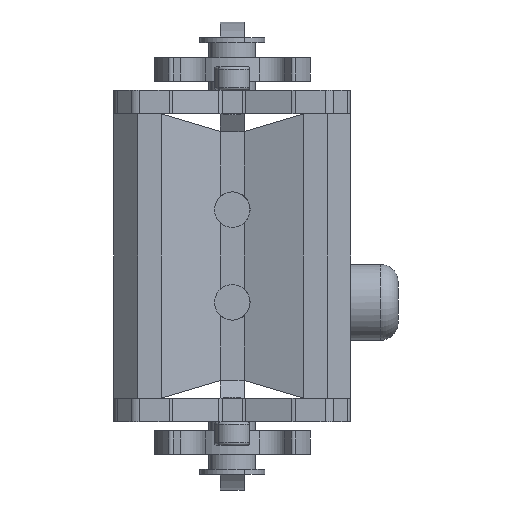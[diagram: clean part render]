
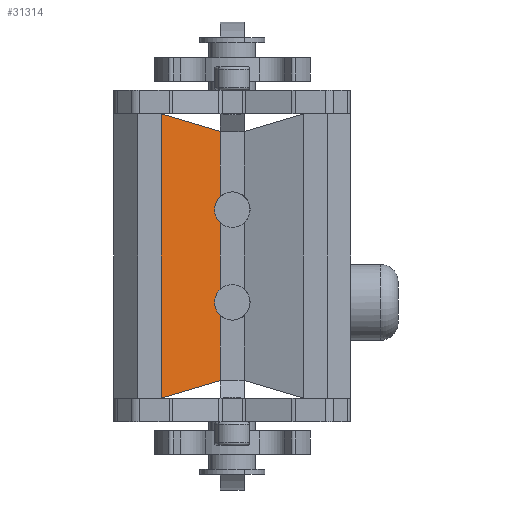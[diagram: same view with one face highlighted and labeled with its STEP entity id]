
A CAD part, front view. The second image highlights one B-rep face of the part: STEP entity #31314.
In plain terms, the highlighted planar face has unit normal (0.287, -0.958, 0).
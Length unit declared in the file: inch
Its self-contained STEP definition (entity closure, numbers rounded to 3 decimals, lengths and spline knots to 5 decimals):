
#53 = CARTESIAN_POINT ( 'NONE',  ( -0.21429, 0.16071, -0.42936 ) ) ;
#60 = VECTOR ( 'NONE', #7192, 39.37008 ) ;
#215 = FACE_OUTER_BOUND ( 'NONE', #17112, .T. ) ;
#299 =( BOUNDED_CURVE ( )  B_SPLINE_CURVE ( 3, ( #37659, #17066, #53, #10159 ),
 .UNSPECIFIED., .F., .F. ) 
 B_SPLINE_CURVE_WITH_KNOTS ( ( 4, 4 ),
 ( 2.30052, 3.98266 ),
 .UNSPECIFIED. ) 
 CURVE ( )  GEOMETRIC_REPRESENTATION_ITEM ( )  RATIONAL_B_SPLINE_CURVE ( ( 1., 0.778, 0.778, 1. ) ) 
 REPRESENTATION_ITEM ( '' )  );
#713 = DIRECTION ( 'NONE',  ( -0.921, -0.276, 0.276 ) ) ;
#715 = CARTESIAN_POINT ( 'NONE',  ( -0.75, 0., -1.5 ) ) ;
#931 = CARTESIAN_POINT ( 'NONE',  ( -0.125, 0.1875, -1.5 ) ) ;
#1827 = DIRECTION ( 'NONE',  ( -0.287, 0.958, 0. ) ) ;
#2577 = ORIENTED_EDGE ( 'NONE', *, *, #30788, .T. ) ;
#3138 = ORIENTED_EDGE ( 'NONE', *, *, #24315, .T. ) ;
#3711 = CARTESIAN_POINT ( 'NONE',  ( -0.75, 0., 1.5 ) ) ;
#5680 = LINE ( 'NONE', #931, #10528 ) ;
#5879 = CARTESIAN_POINT ( 'NONE',  ( -0.125, 0.1875, -0.629 ) ) ;
#6352 = CARTESIAN_POINT ( 'NONE',  ( -0.21429, 0.16071, 0.42936 ) ) ;
#6725 = EDGE_CURVE ( 'NONE', #23639, #26895, #22984, .T. ) ;
#7192 = DIRECTION ( 'NONE',  ( 0., 0., 1. ) ) ;
#8702 = VERTEX_POINT ( 'NONE', #33087 ) ;
#8755 = CARTESIAN_POINT ( 'NONE',  ( -0.75, 0., -1.5 ) ) ;
#9030 = VERTEX_POINT ( 'NONE', #26802 ) ;
#9069 = EDGE_CURVE ( 'NONE', #41512, #37932, #41988, .T. ) ;
#10159 = CARTESIAN_POINT ( 'NONE',  ( -0.125, 0.1875, -0.3495 ) ) ;
#10528 = VECTOR ( 'NONE', #38693, 39.37008 ) ;
#13816 = VECTOR ( 'NONE', #713, 39.37008 ) ;
#13878 = EDGE_CURVE ( 'NONE', #8702, #33175, #23013, .T. ) ;
#16186 = EDGE_CURVE ( 'NONE', #26895, #33175, #22283, .T. ) ;
#16503 = ORIENTED_EDGE ( 'NONE', *, *, #40784, .T. ) ;
#17066 = CARTESIAN_POINT ( 'NONE',  ( -0.21429, 0.16071, -0.54914 ) ) ;
#17112 = EDGE_LOOP ( 'NONE', ( #3138, #40553, #16503, #19443, #38527, #30416, #2577, #43755 ) ) ;
#17302 = CARTESIAN_POINT ( 'NONE',  ( -0.125, 0.1875, 0.629 ) ) ;
#18241 = DIRECTION ( 'NONE',  ( -0.921, -0.276, -0.276 ) ) ;
#18660 = VECTOR ( 'NONE', #18241, 39.37008 ) ;
#19443 = ORIENTED_EDGE ( 'NONE', *, *, #13878, .T. ) ;
#19616 = LINE ( 'NONE', #26546, #37887 ) ;
#19626 = CARTESIAN_POINT ( 'NONE',  ( -0.125, 0.1875, 0.629 ) ) ;
#20824 = CARTESIAN_POINT ( 'NONE',  ( -0.75, 0., 1.5 ) ) ;
#22283 = LINE ( 'NONE', #28072, #34069 ) ;
#22737 = LINE ( 'NONE', #38619, #60 ) ;
#22984 = LINE ( 'NONE', #35359, #18660 ) ;
#23013 = LINE ( 'NONE', #3711, #13816 ) ;
#23533 = CARTESIAN_POINT ( 'NONE',  ( -0.21429, 0.16071, 0.54914 ) ) ;
#23639 = VERTEX_POINT ( 'NONE', #38339 ) ;
#24315 = EDGE_CURVE ( 'NONE', #9030, #41512, #22737, .T. ) ;
#26207 = DIRECTION ( 'NONE',  ( -0.958, -0.287, 0. ) ) ;
#26526 = VERTEX_POINT ( 'NONE', #5879 ) ;
#26546 = CARTESIAN_POINT ( 'NONE',  ( -0.125, 0.1875, -1.5 ) ) ;
#26802 = CARTESIAN_POINT ( 'NONE',  ( -0.125, 0.1875, -0.3495 ) ) ;
#26895 = VERTEX_POINT ( 'NONE', #715 ) ;
#27634 = DIRECTION ( 'NONE',  ( 0., 0., 1. ) ) ;
#28072 = CARTESIAN_POINT ( 'NONE',  ( -0.75, 0., -1.5 ) ) ;
#28801 = AXIS2_PLACEMENT_3D ( 'NONE', #8755, #1827, #26207 ) ;
#29364 = PLANE ( 'NONE',  #28801 ) ;
#29864 = DIRECTION ( 'NONE',  ( 0., 0., 1. ) ) ;
#29968 = CARTESIAN_POINT ( 'NONE',  ( -0.125, 0.1875, 0.3495 ) ) ;
#30416 = ORIENTED_EDGE ( 'NONE', *, *, #6725, .F. ) ;
#30788 = EDGE_CURVE ( 'NONE', #23639, #26526, #19616, .T. ) ;
#31314 = ADVANCED_FACE ( 'NONE', ( #215 ), #29364, .F. ) ;
#33087 = CARTESIAN_POINT ( 'NONE',  ( -0.125, 0.1875, 1.3125 ) ) ;
#33175 = VERTEX_POINT ( 'NONE', #20824 ) ;
#34069 = VECTOR ( 'NONE', #27634, 39.37008 ) ;
#35359 = CARTESIAN_POINT ( 'NONE',  ( -0.75, 0., -1.5 ) ) ;
#36941 = CARTESIAN_POINT ( 'NONE',  ( -0.125, 0.1875, 0.3495 ) ) ;
#37659 = CARTESIAN_POINT ( 'NONE',  ( -0.125, 0.1875, -0.629 ) ) ;
#37887 = VECTOR ( 'NONE', #29864, 39.37008 ) ;
#37932 = VERTEX_POINT ( 'NONE', #17302 ) ;
#38339 = CARTESIAN_POINT ( 'NONE',  ( -0.125, 0.1875, -1.3125 ) ) ;
#38527 = ORIENTED_EDGE ( 'NONE', *, *, #16186, .F. ) ;
#38619 = CARTESIAN_POINT ( 'NONE',  ( -0.125, 0.1875, -1.5 ) ) ;
#38693 = DIRECTION ( 'NONE',  ( 0., 0., 1. ) ) ;
#39527 = EDGE_CURVE ( 'NONE', #26526, #9030, #299, .T. ) ;
#40553 = ORIENTED_EDGE ( 'NONE', *, *, #9069, .T. ) ;
#40784 = EDGE_CURVE ( 'NONE', #37932, #8702, #5680, .T. ) ;
#41512 = VERTEX_POINT ( 'NONE', #36941 ) ;
#41988 =( BOUNDED_CURVE ( )  B_SPLINE_CURVE ( 3, ( #29968, #6352, #23533, #19626 ),
 .UNSPECIFIED., .F., .F. ) 
 B_SPLINE_CURVE_WITH_KNOTS ( ( 4, 4 ),
 ( 2.30052, 3.98266 ),
 .UNSPECIFIED. ) 
 CURVE ( )  GEOMETRIC_REPRESENTATION_ITEM ( )  RATIONAL_B_SPLINE_CURVE ( ( 1., 0.778, 0.778, 1. ) ) 
 REPRESENTATION_ITEM ( '' )  );
#43755 = ORIENTED_EDGE ( 'NONE', *, *, #39527, .T. ) ;
